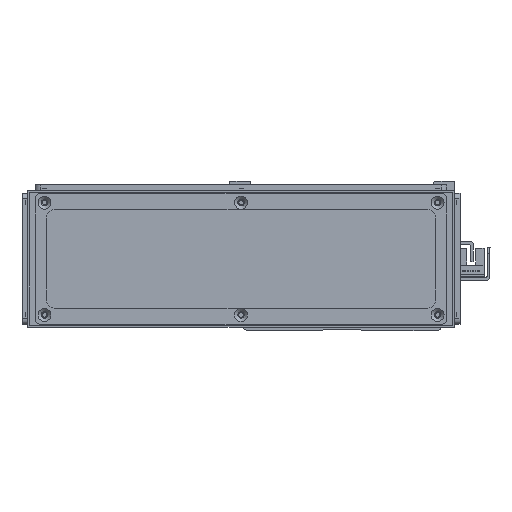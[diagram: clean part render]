
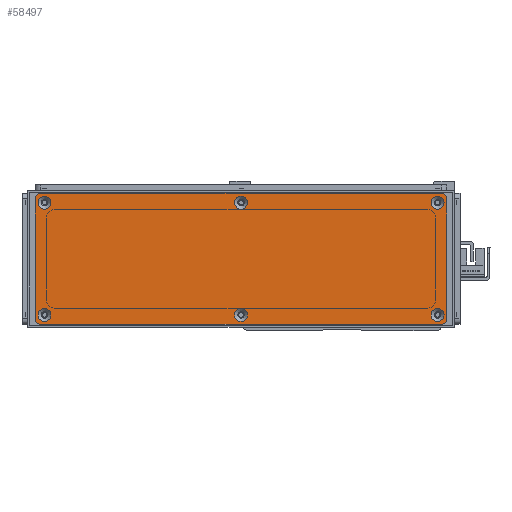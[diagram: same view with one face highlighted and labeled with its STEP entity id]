
A CAD part, front view. The second image highlights one B-rep face of the part: STEP entity #58497.
In plain terms, the highlighted planar face has unit normal (0, -1, 0).
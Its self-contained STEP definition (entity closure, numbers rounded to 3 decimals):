
#2516=FACE_BOUND('',#10053,.T.);
#2517=FACE_BOUND('',#10054,.T.);
#2518=FACE_BOUND('',#10055,.T.);
#2519=FACE_BOUND('',#10056,.T.);
#2520=FACE_BOUND('',#10057,.T.);
#2521=FACE_BOUND('',#10058,.T.);
#3816=CIRCLE('',#63032,3.45);
#3819=CIRCLE('',#63037,3.45);
#3822=CIRCLE('',#63042,3.45);
#3825=CIRCLE('',#63047,3.45);
#3828=CIRCLE('',#63052,3.45);
#3831=CIRCLE('',#63057,3.45);
#3834=CIRCLE('',#63062,3.);
#3836=CIRCLE('',#63065,3.);
#3837=CIRCLE('',#63066,3.);
#3838=CIRCLE('',#63067,3.);
#6699=FACE_OUTER_BOUND('',#10052,.T.);
#10052=EDGE_LOOP('',(#52975,#52976,#52977,#52978,#52979,#52980,#52981,#52982));
#10053=EDGE_LOOP('',(#52983));
#10054=EDGE_LOOP('',(#52984));
#10055=EDGE_LOOP('',(#52985));
#10056=EDGE_LOOP('',(#52986));
#10057=EDGE_LOOP('',(#52987));
#10058=EDGE_LOOP('',(#52988));
#16579=LINE('',#97967,#23137);
#16580=LINE('',#97971,#23138);
#16581=LINE('',#97975,#23139);
#16582=LINE('',#97978,#23140);
#23137=VECTOR('',#77859,10.);
#23138=VECTOR('',#77862,10.);
#23139=VECTOR('',#77865,10.);
#23140=VECTOR('',#77868,10.);
#28651=VERTEX_POINT('',#97897);
#28654=VERTEX_POINT('',#97907);
#28657=VERTEX_POINT('',#97917);
#28660=VERTEX_POINT('',#97927);
#28663=VERTEX_POINT('',#97937);
#28666=VERTEX_POINT('',#97947);
#28669=VERTEX_POINT('',#97957);
#28670=VERTEX_POINT('',#97958);
#28673=VERTEX_POINT('',#97966);
#28674=VERTEX_POINT('',#97968);
#28675=VERTEX_POINT('',#97970);
#28676=VERTEX_POINT('',#97972);
#28677=VERTEX_POINT('',#97974);
#28678=VERTEX_POINT('',#97976);
#36779=EDGE_CURVE('',#28651,#28651,#3816,.T.);
#36784=EDGE_CURVE('',#28654,#28654,#3819,.T.);
#36789=EDGE_CURVE('',#28657,#28657,#3822,.T.);
#36794=EDGE_CURVE('',#28660,#28660,#3825,.T.);
#36799=EDGE_CURVE('',#28663,#28663,#3828,.T.);
#36804=EDGE_CURVE('',#28666,#28666,#3831,.T.);
#36809=EDGE_CURVE('',#28669,#28670,#3834,.T.);
#36813=EDGE_CURVE('',#28669,#28673,#16579,.T.);
#36814=EDGE_CURVE('',#28674,#28673,#3836,.T.);
#36815=EDGE_CURVE('',#28674,#28675,#16580,.T.);
#36816=EDGE_CURVE('',#28676,#28675,#3837,.T.);
#36817=EDGE_CURVE('',#28676,#28677,#16581,.T.);
#36818=EDGE_CURVE('',#28678,#28677,#3838,.T.);
#36819=EDGE_CURVE('',#28678,#28670,#16582,.T.);
#52975=ORIENTED_EDGE('',*,*,#36809,.F.);
#52976=ORIENTED_EDGE('',*,*,#36813,.T.);
#52977=ORIENTED_EDGE('',*,*,#36814,.F.);
#52978=ORIENTED_EDGE('',*,*,#36815,.T.);
#52979=ORIENTED_EDGE('',*,*,#36816,.F.);
#52980=ORIENTED_EDGE('',*,*,#36817,.T.);
#52981=ORIENTED_EDGE('',*,*,#36818,.F.);
#52982=ORIENTED_EDGE('',*,*,#36819,.T.);
#52983=ORIENTED_EDGE('',*,*,#36779,.T.);
#52984=ORIENTED_EDGE('',*,*,#36784,.T.);
#52985=ORIENTED_EDGE('',*,*,#36789,.T.);
#52986=ORIENTED_EDGE('',*,*,#36794,.T.);
#52987=ORIENTED_EDGE('',*,*,#36799,.T.);
#52988=ORIENTED_EDGE('',*,*,#36804,.T.);
#55657=PLANE('',#63064);
#58497=ADVANCED_FACE('',(#6699,#2516,#2517,#2518,#2519,#2520,#2521),#55657,
 .T.);
#63032=AXIS2_PLACEMENT_3D('',#97898,#77779,#77780);
#63037=AXIS2_PLACEMENT_3D('',#97908,#77791,#77792);
#63042=AXIS2_PLACEMENT_3D('',#97918,#77803,#77804);
#63047=AXIS2_PLACEMENT_3D('',#97928,#77815,#77816);
#63052=AXIS2_PLACEMENT_3D('',#97938,#77827,#77828);
#63057=AXIS2_PLACEMENT_3D('',#97948,#77839,#77840);
#63062=AXIS2_PLACEMENT_3D('',#97959,#77851,#77852);
#63064=AXIS2_PLACEMENT_3D('',#97965,#77857,#77858);
#63065=AXIS2_PLACEMENT_3D('',#97969,#77860,#77861);
#63066=AXIS2_PLACEMENT_3D('',#97973,#77863,#77864);
#63067=AXIS2_PLACEMENT_3D('',#97977,#77866,#77867);
#77779=DIRECTION('center_axis',(0.,1.,0.));
#77780=DIRECTION('ref_axis',(1.,0.,0.));
#77791=DIRECTION('center_axis',(0.,1.,0.));
#77792=DIRECTION('ref_axis',(1.,0.,0.));
#77803=DIRECTION('center_axis',(0.,1.,0.));
#77804=DIRECTION('ref_axis',(1.,0.,0.));
#77815=DIRECTION('center_axis',(0.,1.,0.));
#77816=DIRECTION('ref_axis',(1.,0.,0.));
#77827=DIRECTION('center_axis',(0.,1.,0.));
#77828=DIRECTION('ref_axis',(1.,0.,0.));
#77839=DIRECTION('center_axis',(0.,1.,0.));
#77840=DIRECTION('ref_axis',(1.,0.,0.));
#77851=DIRECTION('center_axis',(0.,1.,0.));
#77852=DIRECTION('ref_axis',(-0.707,0.,0.707));
#77857=DIRECTION('center_axis',(0.,-1.,0.));
#77858=DIRECTION('ref_axis',(0.,0.,-1.));
#77859=DIRECTION('',(0.,0.,-1.));
#77860=DIRECTION('center_axis',(0.,1.,0.));
#77861=DIRECTION('ref_axis',(-0.707,0.,-0.707));
#77862=DIRECTION('',(1.,0.,0.));
#77863=DIRECTION('center_axis',(0.,1.,0.));
#77864=DIRECTION('ref_axis',(0.707,0.,-0.707));
#77865=DIRECTION('',(0.,0.,1.));
#77866=DIRECTION('center_axis',(0.,1.,0.));
#77867=DIRECTION('ref_axis',(0.707,0.,0.707));
#77868=DIRECTION('',(-1.,0.,0.));
#97897=CARTESIAN_POINT('',(101.55,-1.5,30.));
#97898=CARTESIAN_POINT('Origin',(105.,-1.5,30.));
#97907=CARTESIAN_POINT('',(-3.45,-1.5,-30.));
#97908=CARTESIAN_POINT('Origin',(0.,-1.5,-30.));
#97917=CARTESIAN_POINT('',(-108.45,-1.5,30.));
#97918=CARTESIAN_POINT('Origin',(-105.,-1.5,30.));
#97927=CARTESIAN_POINT('',(-108.45,-1.5,-30.));
#97928=CARTESIAN_POINT('Origin',(-105.,-1.5,-30.));
#97937=CARTESIAN_POINT('',(-3.45,-1.5,30.));
#97938=CARTESIAN_POINT('Origin',(0.,-1.5,30.));
#97947=CARTESIAN_POINT('',(101.55,-1.5,-30.));
#97948=CARTESIAN_POINT('Origin',(105.,-1.5,-30.));
#97957=CARTESIAN_POINT('',(-110.,-1.5,32.));
#97958=CARTESIAN_POINT('',(-107.,-1.5,35.));
#97959=CARTESIAN_POINT('Origin',(-107.,-1.5,32.));
#97965=CARTESIAN_POINT('Origin',(0.,-1.5,0.));
#97966=CARTESIAN_POINT('',(-110.,-1.5,-32.));
#97967=CARTESIAN_POINT('',(-110.,-1.5,35.));
#97968=CARTESIAN_POINT('',(-107.,-1.5,-35.));
#97969=CARTESIAN_POINT('Origin',(-107.,-1.5,-32.));
#97970=CARTESIAN_POINT('',(107.,-1.5,-35.));
#97971=CARTESIAN_POINT('',(-110.,-1.5,-35.));
#97972=CARTESIAN_POINT('',(110.,-1.5,-32.));
#97973=CARTESIAN_POINT('Origin',(107.,-1.5,-32.));
#97974=CARTESIAN_POINT('',(110.,-1.5,32.));
#97975=CARTESIAN_POINT('',(110.,-1.5,-35.));
#97976=CARTESIAN_POINT('',(107.,-1.5,35.));
#97977=CARTESIAN_POINT('Origin',(107.,-1.5,32.));
#97978=CARTESIAN_POINT('',(110.,-1.5,35.));
